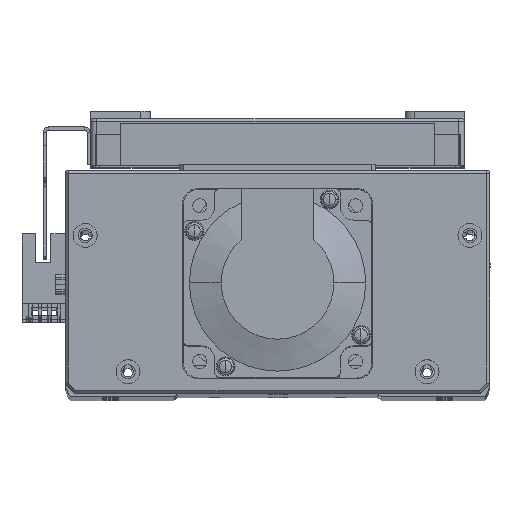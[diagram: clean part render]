
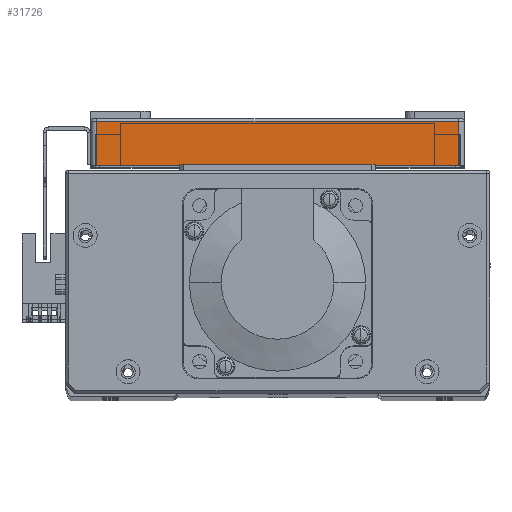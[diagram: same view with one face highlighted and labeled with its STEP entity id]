
A CAD part, top view. The second image highlights one B-rep face of the part: STEP entity #31726.
In plain terms, the highlighted planar face has unit normal (0, 0, 1) as drawn and (-1, 0, 0) by its records, which use the part's own axes.
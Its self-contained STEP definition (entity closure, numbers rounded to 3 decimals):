
#57 = CARTESIAN_POINT ( 'NONE',  ( -95., 0., 57.5 ) ) ;
#115 = CARTESIAN_POINT ( 'NONE',  ( -95., 14., -57.5 ) ) ;
#210 = CARTESIAN_POINT ( 'NONE',  ( -95., 14., 57.5 ) ) ;
#1781 = EDGE_LOOP ( 'NONE', ( #45971, #45994, #45986, #45981 ) ) ;
#5356 = PLANE ( 'NONE',  #49617 ) ;
#5357 = DIRECTION ( 'NONE',  ( 0., 0., -1. ) ) ;
#5377 = CARTESIAN_POINT ( 'NONE',  ( -95., 15., -59.5 ) ) ;
#5393 = DIRECTION ( 'NONE',  ( 1., 0., 0. ) ) ;
#12053 = FACE_OUTER_BOUND ( 'NONE', #1781, .T. ) ;
#15263 = CARTESIAN_POINT ( 'NONE',  ( -95., 14., -57.5 ) ) ;
#15286 = DIRECTION ( 'NONE',  ( 0., 0., -1. ) ) ;
#15332 = DIRECTION ( 'NONE',  ( 0., 1., 0. ) ) ;
#15357 = CARTESIAN_POINT ( 'NONE',  ( -95., 15., 57.5 ) ) ;
#15364 = CARTESIAN_POINT ( 'NONE',  ( -95., 15., -57.5 ) ) ;
#15369 = DIRECTION ( 'NONE',  ( 0., -1., 0. ) ) ;
#15426 = CARTESIAN_POINT ( 'NONE',  ( -95., 0., -59.5 ) ) ;
#15428 = DIRECTION ( 'NONE',  ( 0., 0., 1. ) ) ;
#22964 = VECTOR ( 'NONE', #15332, 1000. ) ;
#22980 = LINE ( 'NONE', #15263, #23015 ) ;
#23012 = LINE ( 'NONE', #15357, #22964 ) ;
#23015 = VECTOR ( 'NONE', #15286, 1000. ) ;
#23042 = VECTOR ( 'NONE', #15369, 1000. ) ;
#23046 = LINE ( 'NONE', #15426, #23049 ) ;
#23049 = VECTOR ( 'NONE', #15428, 1000. ) ;
#23082 = LINE ( 'NONE', #15364, #23042 ) ;
#31726 = ADVANCED_FACE ( 'NONE', ( #12053 ), #5356, .F. ) ;
#34138 = VERTEX_POINT ( 'NONE', #55657 ) ;
#34196 = VERTEX_POINT ( 'NONE', #57 ) ;
#34228 = VERTEX_POINT ( 'NONE', #115 ) ;
#34279 = VERTEX_POINT ( 'NONE', #210 ) ;
#44764 = EDGE_CURVE ( 'NONE', #34279, #34228, #22980, .T. ) ;
#44773 = EDGE_CURVE ( 'NONE', #34196, #34279, #23012, .T. ) ;
#44802 = EDGE_CURVE ( 'NONE', #34228, #34138, #23082, .T. ) ;
#44806 = EDGE_CURVE ( 'NONE', #34138, #34196, #23046, .T. ) ;
#45971 = ORIENTED_EDGE ( 'NONE', *, *, #44773, .T. ) ;
#45981 = ORIENTED_EDGE ( 'NONE', *, *, #44806, .T. ) ;
#45986 = ORIENTED_EDGE ( 'NONE', *, *, #44802, .T. ) ;
#45994 = ORIENTED_EDGE ( 'NONE', *, *, #44764, .T. ) ;
#49617 = AXIS2_PLACEMENT_3D ( 'NONE', #5377, #5393, #5357 ) ;
#55657 = CARTESIAN_POINT ( 'NONE',  ( -95., 0., -57.5 ) ) ;
